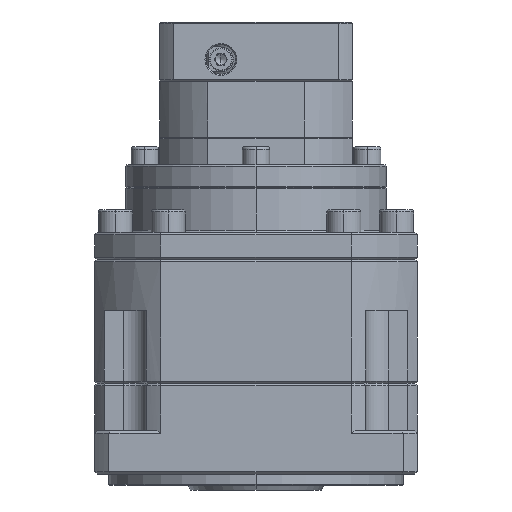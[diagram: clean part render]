
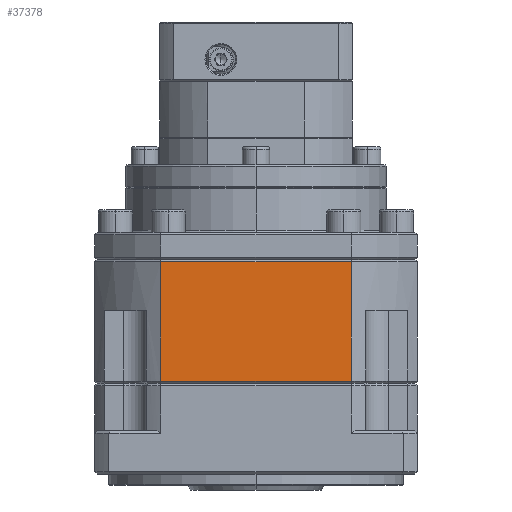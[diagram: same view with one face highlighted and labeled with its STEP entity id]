
A CAD part, left-side view. The second image highlights one B-rep face of the part: STEP entity #37378.
In plain terms, the highlighted planar face has unit normal (-1, 0, 0).
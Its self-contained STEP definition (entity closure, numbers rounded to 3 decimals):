
#5264 = DIRECTION ( 'NONE',  ( 0., 0., 1. ) ) ;
#7909 = EDGE_CURVE ( 'NONE', #79402, #49744, #70033, .T. ) ;
#9887 = CARTESIAN_POINT ( 'NONE',  ( -152.665, 86.987, -90.551 ) ) ;
#9909 = CARTESIAN_POINT ( 'NONE',  ( -152.665, -26.028, -143.051 ) ) ;
#13146 = VERTEX_POINT ( 'NONE', #82111 ) ;
#18346 = DIRECTION ( 'NONE',  ( 0., -1., 0. ) ) ;
#19567 = DIRECTION ( 'NONE',  ( 1., 0., 0. ) ) ;
#20064 = EDGE_CURVE ( 'NONE', #13146, #100802, #76728, .T. ) ;
#23066 = LINE ( 'NONE', #9909, #92843 ) ;
#37378 = ADVANCED_FACE ( 'NONE', ( #58116 ), #104264, .F. ) ;
#40156 = EDGE_LOOP ( 'NONE', ( #83105, #113920, #78608, #45446 ) ) ;
#41890 = CARTESIAN_POINT ( 'NONE',  ( -152.665, 86.987, 146.127 ) ) ;
#45446 = ORIENTED_EDGE ( 'NONE', *, *, #68674, .T. ) ;
#47800 = CARTESIAN_POINT ( 'NONE',  ( -152.665, -26.028, -89.551 ) ) ;
#49026 = LINE ( 'NONE', #9887, #83960 ) ;
#49283 = CARTESIAN_POINT ( 'NONE',  ( -152.665, 86.987, -90.551 ) ) ;
#49744 = VERTEX_POINT ( 'NONE', #49283 ) ;
#57852 = VECTOR ( 'NONE', #72780, 1000. ) ;
#58116 = FACE_OUTER_BOUND ( 'NONE', #40156, .T. ) ;
#68674 = EDGE_CURVE ( 'NONE', #79402, #100802, #23066, .T. ) ;
#70033 = LINE ( 'NONE', #41890, #91919 ) ;
#72780 = DIRECTION ( 'NONE',  ( 0., 0., -1. ) ) ;
#73803 = CARTESIAN_POINT ( 'NONE',  ( -152.665, 2.957, -143.051 ) ) ;
#76728 = LINE ( 'NONE', #80967, #57852 ) ;
#78608 = ORIENTED_EDGE ( 'NONE', *, *, #7909, .F. ) ;
#79377 = EDGE_CURVE ( 'NONE', #13146, #49744, #49026, .T. ) ;
#79402 = VERTEX_POINT ( 'NONE', #103812 ) ;
#80967 = CARTESIAN_POINT ( 'NONE',  ( -152.665, 2.957, 146.127 ) ) ;
#82111 = CARTESIAN_POINT ( 'NONE',  ( -152.665, 2.957, -90.551 ) ) ;
#83105 = ORIENTED_EDGE ( 'NONE', *, *, #20064, .F. ) ;
#83960 = VECTOR ( 'NONE', #84792, 1000. ) ;
#84426 = DIRECTION ( 'NONE',  ( 0., 0., -1. ) ) ;
#84792 = DIRECTION ( 'NONE',  ( 0., 1., 0. ) ) ;
#91919 = VECTOR ( 'NONE', #5264, 1000. ) ;
#92843 = VECTOR ( 'NONE', #18346, 1000. ) ;
#100802 = VERTEX_POINT ( 'NONE', #73803 ) ;
#103812 = CARTESIAN_POINT ( 'NONE',  ( -152.665, 86.987, -143.051 ) ) ;
#104264 = PLANE ( 'NONE',  #108722 ) ;
#108722 = AXIS2_PLACEMENT_3D ( 'NONE', #47800, #19567, #84426 ) ;
#113920 = ORIENTED_EDGE ( 'NONE', *, *, #79377, .T. ) ;
